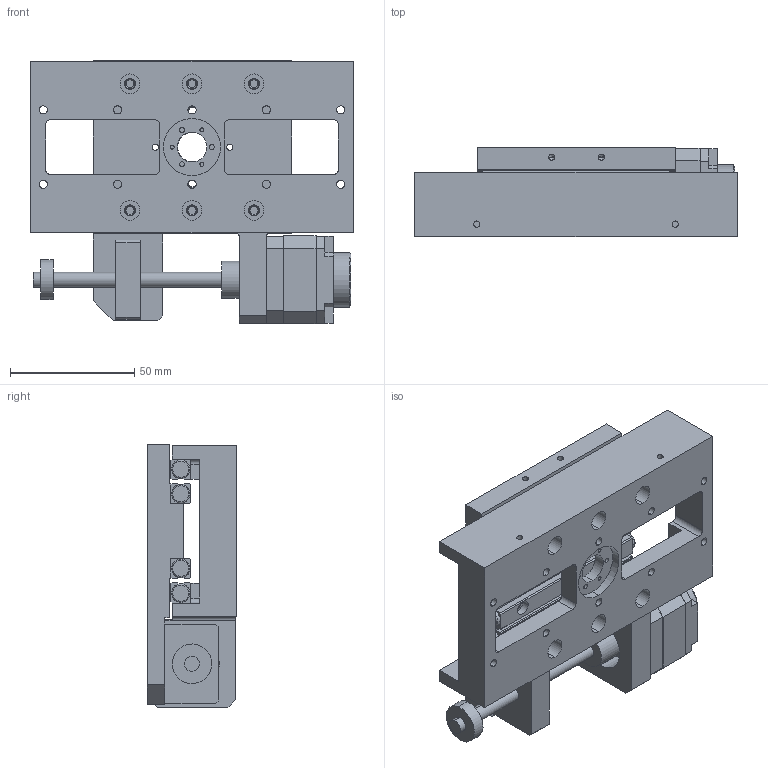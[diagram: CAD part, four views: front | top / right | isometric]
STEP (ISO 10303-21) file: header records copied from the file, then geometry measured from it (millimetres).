
FILE_DESCRIPTION (( 'STEP AP214' ), '1' );
FILE_NAME ('VSM17-X-050 STEP.STEP', '2022-12-15T12:36:02', ( '' ), ( '' ), 'SwSTEP 2.0', 'SolidWorks 2022', '' );
FILE_SCHEMA (( 'AUTOMOTIVE_DESIGN' ));
Length unit declared in the file: millimetre
Products named in the file (7): Simplified Leadscrew Nut; Simplified Motor_H; Simplified VSM17-X-050 Base V2; Simplified Drivetrain_VSM17-X-50; Simplified Bearing 050; Simplified VSM17-X-050 Carriage; VSM17-X-050 STEP
Assembly tree (9 placements, depth 2):
  VSM17-X-050 STEP
    Simplified VSM17-X-050 Base V2
    Simplified Bearing 050  x4
    Simplified Motor_H
    Simplified Drivetrain_VSM17-X-50
    Simplified VSM17-X-050 Carriage
    Simplified Leadscrew Nut
Bounding box: 130 x 36 x 106.2 mm (x, y, z)
Volume: 233919 mm3; surface area: 82389.9 mm2
Topology: 9 solids, 9 shells, 561 faces, 1436 edges, 922 vertices
Faces by surface type: cylinder 254, plane 237, cone 54, torus 16
Entity records: 13764 total; most frequent: CARTESIAN_POINT 2269, DIRECTION 2265, ORIENTED_EDGE 2048, EDGE_CURVE 1024, AXIS2_PLACEMENT_3D 841, VERTEX_POINT 673, LINE 583, VECTOR 583
